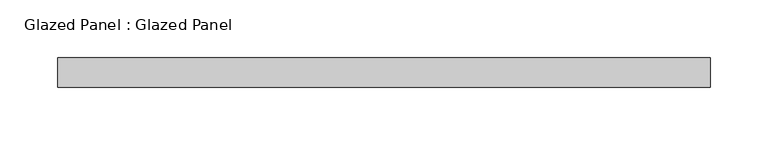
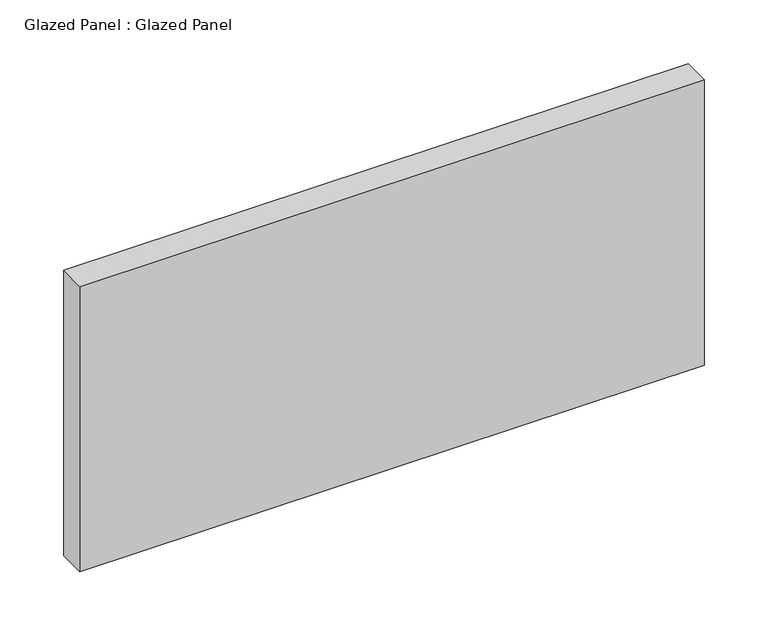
"""IFC4 building model written with IfcOpenShell, lengths in millimetres: plate geometry, Glazed Panel : Glazed Panel."""

from ifc_helpers import new_model, si_unit, origin, origin_with_axes, place, context, project, spatial, polyline, outline, extrude, source, transform, mapped, element, save


def glazed_panel_glazed_panel_5e1e44f7(model_context):
    return source(origin(), model_context, "Body", "SweptSolid", [
        extrude(outline(polyline([(282.575, 38.1), (-282.575, 38.1), (-282.575, 63.5), (282.575, 63.5), (282.575, 38.1)])), origin_with_axes(), (0.0, 0.0, 1.0), 273.05),
    ])


if __name__ == "__main__":
    model = new_model("IFC4")
    model_context = context("Model", 3, world=origin())
    ifc_project = project(units=[si_unit("LENGTHUNIT", "METRE", prefix="MILLI")], contexts=[model_context])
    site = spatial("IfcSite", under=ifc_project)
    building = spatial("IfcBuilding", under=site)
    placement = place(None, origin())
    glazed_panel_glazed_panel_shape = glazed_panel_glazed_panel_5e1e44f7(model_context)
    element("IfcPlate", 1, ObjectType="Glazed Panel : Glazed Panel", at=placement, inside=building, context=model_context, shape_type="MappedRepresentation", body=[
        mapped(glazed_panel_glazed_panel_shape, transform((0.0, 0.0, 0.0), x_axis=(1.0, 0.0, 0.0), y_axis=(0.0, 1.0, 0.0), z_axis=(0.0, 0.0, 1.0))),
    ])
    save(model, "model.ifc")
